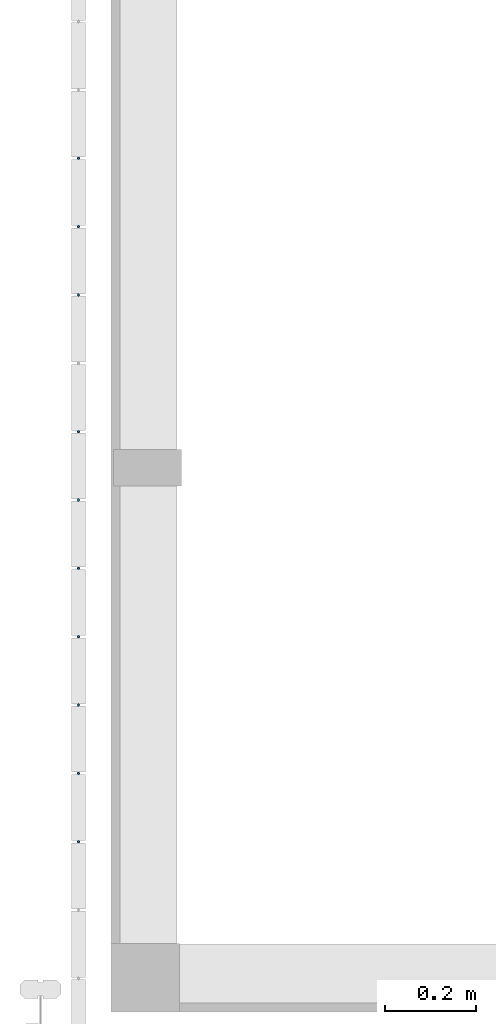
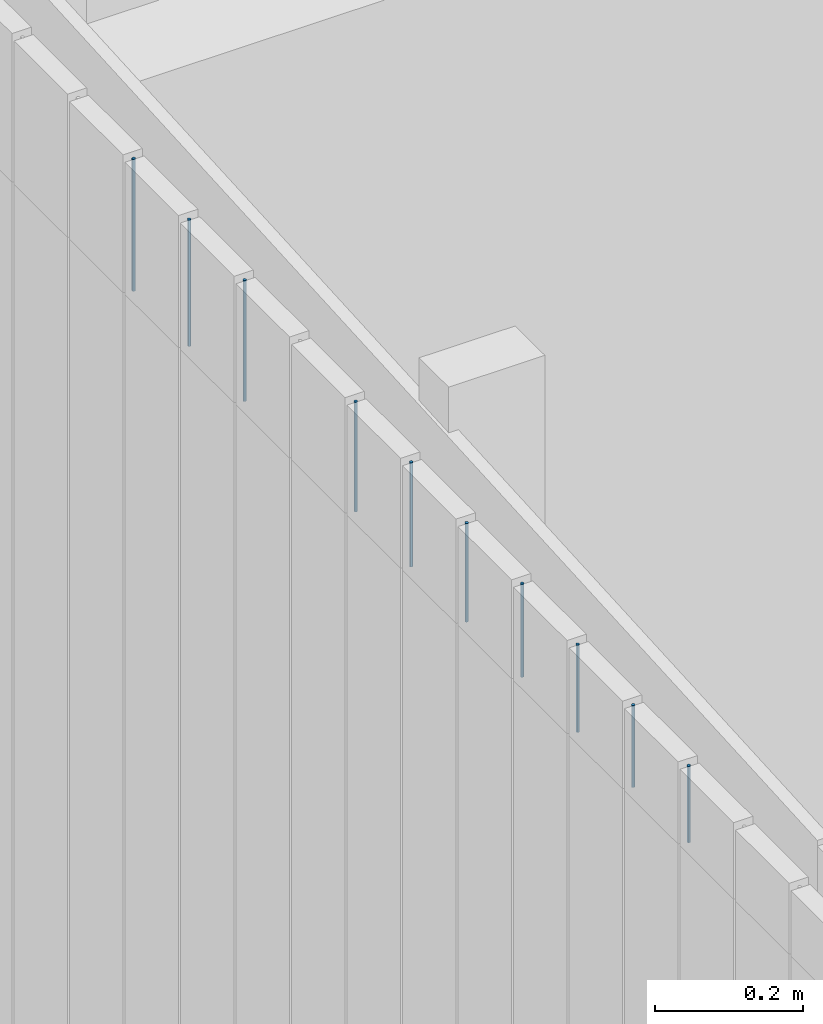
# One storey, part 57 of 81: 10 members, 1 element without a shape of its own.
"""IFC2X3 building model written with IfcOpenShell, lengths in metres."""

import ifcopenshell
import ifcopenshell.guid

model = None  # the IFC model being written
_history = None  # IfcOwnerHistory: only IFC2X3 demands one
_inside = {}  # id of a spatial element -> (the spatial element, [elements in it])
_under = {}  # id of a project, library or spatial element -> (it, [spatial elements below it])
_declared = {}  # id of a project -> (the project, [libraries it declares])
_typed = {}  # id of a type object -> (the type object, [elements of that type])
_made_of = {}  # id of a material, layer set ... -> (it, [elements and type objects made of it])


def new_model(schema):
    """Start an empty IFC model of exactly this schema.

    Asked for "IFC4X3", IfcOpenShell would pick the latest addendum, in which some entities
    have other attributes; the version numbers below select the first issue.
    IFC2X3 requires an IfcOwnerHistory on every rooted entity: one is made here for all.
    """
    global model, _history
    if schema == "IFC4X3":
        model = ifcopenshell.file(schema_version=(4, 3, 0, 0))
    else:
        model = ifcopenshell.file(schema=schema)
    _inside.clear()
    _under.clear()
    _declared.clear()
    _typed.clear()
    _made_of.clear()
    _history = None
    if model.schema == "IFC2X3":
        org = make("IfcOrganization", Name="unknown")
        user = make(
            "IfcPersonAndOrganization",
            ThePerson=make("IfcPerson", FamilyName="unknown"),
            TheOrganization=org,
        )
        app = make(
            "IfcApplication",
            ApplicationDeveloper=org,
            Version="unknown",
            ApplicationFullName="unknown",
            ApplicationIdentifier="unknown",
        )
        _history = make(
            "IfcOwnerHistory",
            OwningUser=user,
            OwningApplication=app,
            ChangeAction="ADDED",
            CreationDate=0,
        )
    return model


def make(cls, **values):
    """One entity of the class cls with the attributes given. An attribute that is None is left unset."""
    return model.create_entity(
        cls, **{name: value for name, value in values.items() if value is not None}
    )


def entity(cls, *values):
    """Any entity or typed value of the class cls, its attributes in the order of the schema. None: left unset."""
    e = model.create_entity(cls)
    for i, value in enumerate(values):
        if value is not None:
            e[i] = value
    return e


def rooted(cls, **values):
    """An entity with a GlobalId (a new one), such as an element, a storey or a relation."""
    return make(cls, GlobalId=ifcopenshell.guid.new(), OwnerHistory=_history, **values)


def si_unit(unit_type, name, prefix=None):
    """IfcSIUnit, for example si_unit("LENGTHUNIT", "METRE", prefix="MILLI")."""
    return make("IfcSIUnit", UnitType=unit_type, Prefix=prefix, Name=name)


def converted_unit(unit_type, name, factor, base, dimensions=None, offset=None):
    """IfcConversionBasedUnit, such as the inch: factor (a typed value) times the base unit."""
    return make(
        "IfcConversionBasedUnit"
        if offset is None
        else "IfcConversionBasedUnitWithOffset",
        ConversionOffset=offset,
        Dimensions=None
        if dimensions is None
        else entity("IfcDimensionalExponents", *dimensions),
        UnitType=unit_type,
        Name=name,
        ConversionFactor=make(
            "IfcMeasureWithUnit", ValueComponent=factor, UnitComponent=base
        ),
    )


def derived_unit(unit_type, elements):
    """IfcDerivedUnit: a product of units, each with its exponent."""
    return make(
        "IfcDerivedUnit",
        Elements=[
            make("IfcDerivedUnitElement", Unit=unit, Exponent=power)
            for unit, power in elements
        ],
        UnitType=unit_type,
    )


def assignment(units):
    """IfcUnitAssignment: the units of a project."""
    return None if units is None else make("IfcUnitAssignment", Units=units)


def point(xyz):
    """IfcCartesianPoint."""
    return None if xyz is None else make("IfcCartesianPoint", Coordinates=xyz)


def direction(xyz):
    """IfcDirection."""
    return None if xyz is None else make("IfcDirection", DirectionRatios=xyz)


def frame(location, z_axis=None, x_axis=None):
    """IfcAxis2Placement3D, a coordinate frame: its origin and axes. An axis left out is left unset."""
    return make(
        "IfcAxis2Placement3D",
        Location=point(location),
        Axis=direction(z_axis),
        RefDirection=direction(x_axis),
    )


def frame_2d(location, x_axis=None):
    """IfcAxis2Placement2D, a coordinate frame in the plane: its origin and x axis."""
    return make(
        "IfcAxis2Placement2D", Location=point(location), RefDirection=direction(x_axis)
    )


def origin():
    """The frame at (0, 0, 0) with its axes left unset."""
    return frame((0.0, 0.0, 0.0))


def place(relative_to, where):
    """IfcLocalPlacement: puts the frame where relative to a parent placement (None: the world)."""
    return make(
        "IfcLocalPlacement", PlacementRelTo=relative_to, RelativePlacement=where
    )


def context(
    kind, dimensions, precision=None, world=None, true_north=None, identifier=None
):
    """IfcGeometricRepresentationContext, for example the 3D "Model" context."""
    return make(
        "IfcGeometricRepresentationContext",
        ContextIdentifier=identifier,
        ContextType=kind,
        CoordinateSpaceDimension=dimensions,
        Precision=precision,
        WorldCoordinateSystem=world,
        TrueNorth=true_north,
    )


def subcontext(parent, identifier, kind, view, scale=None):
    """IfcGeometricRepresentationSubContext, for example "Body" below "Model"."""
    return make(
        "IfcGeometricRepresentationSubContext",
        ContextIdentifier=identifier,
        ContextType=kind,
        ParentContext=parent,
        TargetScale=scale,
        TargetView=view,
    )


def project(units=None, contexts=None):
    """IfcProject with its units and contexts."""
    return rooted(
        "IfcProject",
        Name="project",
        RepresentationContexts=contexts,
        UnitsInContext=assignment(units),
    )


def spatial(cls, under=None, at=None, **own):
    """A site, building, storey or space (cls), placed at a placement, below another one or the project."""
    s = rooted(cls, ObjectPlacement=at, **own)
    if under is not None:
        _under.setdefault(under.id(), (under, []))[1].append(s)
    return s


def profile(cls, at=None, kind="AREA", **sizes):
    """A parametric profile (cls). Its sizes go by their IFC names, for example OverallWidth=200.0."""
    return make(cls, ProfileType=kind, Position=at, **sizes)


def circle(**sizes):
    """IfcCircleProfileDef."""
    return profile("IfcCircleProfileDef", **sizes)


def extrude(swept, where, along, depth):
    """IfcExtrudedAreaSolid: the profile swept, set in the frame where, extruded along a direction by depth."""
    return make(
        "IfcExtrudedAreaSolid",
        SweptArea=swept,
        Position=where,
        ExtrudedDirection=direction(along),
        Depth=depth,
    )


def shape(context_of_items, identifier, shape_type, items):
    """IfcShapeRepresentation: the items that make up one representation, for example the "Body"."""
    return make(
        "IfcShapeRepresentation",
        ContextOfItems=context_of_items,
        RepresentationIdentifier=identifier,
        RepresentationType=shape_type,
        Items=items,
    )


def source(mapping_origin, context_of_items, identifier, shape_type, items):
    """IfcRepresentationMap: a shape defined once, which mapped items show again and again."""
    return make(
        "IfcRepresentationMap",
        MappingOrigin=mapping_origin,
        MappedRepresentation=shape(context_of_items, identifier, shape_type, items),
    )


def transform(
    local_origin,
    x_axis=None,
    y_axis=None,
    z_axis=None,
    scale=None,
    scale2=None,
    scale3=None,
    uniform=True,
):
    """IfcCartesianTransformationOperator3D, or its non-uniform kind. x_axis, y_axis, z_axis: its Axis1, 2, 3."""
    if uniform:
        return make(
            "IfcCartesianTransformationOperator3D",
            Axis1=direction(x_axis),
            Axis2=direction(y_axis),
            LocalOrigin=point(local_origin),
            Scale=scale,
            Axis3=direction(z_axis),
        )
    return make(
        "IfcCartesianTransformationOperator3DnonUniform",
        Axis1=direction(x_axis),
        Axis2=direction(y_axis),
        LocalOrigin=point(local_origin),
        Scale=scale,
        Axis3=direction(z_axis),
        Scale2=scale2,
        Scale3=scale3,
    )


def mapped(mapping_source, mapping_target):
    """IfcMappedItem: shows the shape of a source again, moved by a transform."""
    return make(
        "IfcMappedItem", MappingSource=mapping_source, MappingTarget=mapping_target
    )


def material(Name=None, Category=None):
    """IfcMaterial."""
    return make("IfcMaterial", Name=Name, Category=Category)


def made_of(thing, what):
    """Note that an element or type object is made of a material, layer set ...; save() writes the relation."""
    if what is not None:
        _made_of.setdefault(what.id(), (what, []))[1].append(thing)
    return thing


def type_object(cls, material=None, **own):
    """A type object (cls), such as IfcWallType, which elements share."""
    return made_of(rooted(cls, **own), material)


def type_shapes(of_type, sources):
    """Give a type object the sources (RepresentationMaps) that its elements show as mapped items."""
    of_type.RepresentationMaps = sources


def element(
    cls,
    number,
    at=None,
    inside=None,
    cuts=None,
    type_object=None,
    material=None,
    context=None,
    identifier="Body",
    shape_type=None,
    held_by="IfcProductDefinitionShape",
    body=None,
    shapes=None,
    **own,
):
    """One element of the class cls, such as IfcWall. Its Tag is "e" and its number.

    at: its placement. inside: the storey or other place that contains it. cuts: it is an
    opening in that element (IfcRelVoidsElement). A single representation is given by context,
    identifier, shape_type and body (its items); several are given by shapes. held_by: the class
    of the entity that holds the representations. save() writes the other relations.
    """
    e = rooted(cls, Tag="e%d" % number, ObjectPlacement=at, **own)
    if body is not None:
        shapes = [shape(context, identifier, shape_type, body)]
    if shapes is not None:
        e.Representation = make(held_by, Representations=shapes)
    if inside is not None:
        _inside.setdefault(inside.id(), (inside, []))[1].append(e)
    if cuts is not None:
        rooted(
            "IfcRelVoidsElement", RelatingBuildingElement=cuts, RelatedOpeningElement=e
        )
    if type_object is not None:
        _typed.setdefault(type_object.id(), (type_object, []))[1].append(e)
    return made_of(e, material)


def aggregate(whole, parts):
    """IfcRelAggregates: a whole, such as a stair, and the parts it consists of."""
    return rooted("IfcRelAggregates", RelatingObject=whole, RelatedObjects=parts)


def save(model, path):
    """Write the relations noted so far, then the file.

    IfcRelAggregates (storeys below a building ...), IfcRelContainedInSpatialStructure (elements
    in a storey), IfcRelDefinesByType, IfcRelAssociatesMaterial and IfcRelDeclares: one each for
    every whole, place, type object, material and project.
    """
    for whole, parts in _under.values():
        aggregate(whole, parts)
    for where, things in _inside.values():
        rooted(
            "IfcRelContainedInSpatialStructure",
            RelatedElements=things,
            RelatingStructure=where,
        )
    for kind, things in _typed.values():
        rooted("IfcRelDefinesByType", RelatedObjects=things, RelatingType=kind)
    for what, things in _made_of.values():
        rooted("IfcRelAssociatesMaterial", RelatedObjects=things, RelatingMaterial=what)
    for by, libraries in _declared.values():
        rooted("IfcRelDeclares", RelatingContext=by, RelatedDefinitions=libraries)
    model.write(path)


model = new_model("IFC2X3")

# Units and contexts
model_context = context("Model", 3, precision=1e-05, world=origin(), true_north=direction((6.12303176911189e-17, 1.0)))
body_context = subcontext(model_context, "Body", "Model", "MODEL_VIEW")
ifc_project = project(units=[si_unit("LENGTHUNIT", "METRE"), si_unit("AREAUNIT", "SQUARE_METRE"), si_unit("VOLUMEUNIT", "CUBIC_METRE"), converted_unit("PLANEANGLEUNIT", "DEGREE", entity("IfcRatioMeasure", 0.0174532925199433), si_unit("PLANEANGLEUNIT", "RADIAN"), dimensions=[0, 0, 0, 0, 0, 0, 0]), si_unit("MASSUNIT", "GRAM", prefix="KILO"), derived_unit("MASSDENSITYUNIT", [(si_unit("MASSUNIT", "GRAM", prefix="KILO"), 1), (si_unit("LENGTHUNIT", "METRE"), -3)]), derived_unit("MOMENTOFINERTIAUNIT", [(si_unit("LENGTHUNIT", "METRE"), 4)]), si_unit("TIMEUNIT", "SECOND"), si_unit("FREQUENCYUNIT", "HERTZ"), si_unit("THERMODYNAMICTEMPERATUREUNIT", "DEGREE_CELSIUS"), derived_unit("THERMALTRANSMITTANCEUNIT", [(si_unit("MASSUNIT", "GRAM", prefix="KILO"), 1), (si_unit("THERMODYNAMICTEMPERATUREUNIT", "KELVIN"), -1), (si_unit("TIMEUNIT", "SECOND"), -3)]), derived_unit("VOLUMETRICFLOWRATEUNIT", [(si_unit("LENGTHUNIT", "METRE"), 3), (si_unit("TIMEUNIT", "SECOND"), -1)]), si_unit("ELECTRICCURRENTUNIT", "AMPERE"), si_unit("ELECTRICVOLTAGEUNIT", "VOLT"), si_unit("POWERUNIT", "WATT"), si_unit("FORCEUNIT", "NEWTON", prefix="KILO"), si_unit("ILLUMINANCEUNIT", "LUX"), si_unit("LUMINOUSFLUXUNIT", "LUMEN"), si_unit("LUMINOUSINTENSITYUNIT", "CANDELA"), derived_unit("USERDEFINED", [(si_unit("MASSUNIT", "GRAM", prefix="KILO"), -1), (si_unit("LENGTHUNIT", "METRE"), -2), (si_unit("TIMEUNIT", "SECOND"), 3), (si_unit("LUMINOUSFLUXUNIT", "LUMEN"), 1)]), derived_unit("LINEARVELOCITYUNIT", [(si_unit("LENGTHUNIT", "METRE"), 1), (si_unit("TIMEUNIT", "SECOND"), -1)]), si_unit("PRESSUREUNIT", "PASCAL"), derived_unit("USERDEFINED", [(si_unit("LENGTHUNIT", "METRE"), -2), (si_unit("MASSUNIT", "GRAM", prefix="KILO"), 1), (si_unit("TIMEUNIT", "SECOND"), -2)]), derived_unit("LINEARFORCEUNIT", [(si_unit("MASSUNIT", "GRAM", prefix="KILO"), 1), (si_unit("LENGTHUNIT", "METRE"), 1), (si_unit("TIMEUNIT", "SECOND"), -2), (si_unit("LENGTHUNIT", "METRE"), -1)]), derived_unit("PLANARFORCEUNIT", [(si_unit("MASSUNIT", "GRAM", prefix="KILO"), 1), (si_unit("LENGTHUNIT", "METRE"), 1), (si_unit("TIMEUNIT", "SECOND"), -2), (si_unit("LENGTHUNIT", "METRE"), -2)])], contexts=[model_context])

# Site, building, storey
site_placement = place(None, origin())
site = spatial("IfcSite", under=ifc_project, at=site_placement, Name="Surface", CompositionType="ELEMENT")
building_placement = place(site_placement, origin())
building = spatial("IfcBuilding", under=site, at=building_placement, CompositionType="ELEMENT")
storey_placement = place(building_placement, origin())
storey = spatial("IfcBuildingStorey", under=building, at=storey_placement, Name="01 RDC", CompositionType="ELEMENT", Elevation=-1.94916083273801e-14)

# Curtain wall, members
curtain_wall_type = type_object("IfcCurtainWallType", Name="Mur-rideau:1m x 2m", PredefinedType="NOTDEFINED")
curtain_wall_placement = place(storey_placement, origin())
curtain_wall = element("IfcCurtainWall", 1, at=curtain_wall_placement, inside=storey, type_object=curtain_wall_type, Name="Mur-rideau:1m x 2m", ObjectType="Mur-rideau:1m x 2m")
ifc_material = material(Name="Aluminium - Vert")
member_type_1 = type_object("IfcMemberType", Name="Meneau circulaire:R-30 mm", PredefinedType="MULLION", material=ifc_material)
shared_shape_1 = source(origin(), body_context, "Body", "SweptSolid", [
    extrude(circle(Radius=0.0025, at=frame_2d((-8.51053543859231e-29, 3.26029906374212e-16), x_axis=(1.0, 0.0))), frame((0.0, 0.0, -0.199685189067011), z_axis=(0.0, 0.0, 1.0), x_axis=(-1.0, 0.0, 0.0)), (0.0, 0.0, 1.0), 0.199685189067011),
])
type_shapes(member_type_1, [shared_shape_1])
member_1_placement = place(storey_placement, frame((5.45983615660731, -4.65721095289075, 2.3), z_axis=(0.0, 0.0, -1.0), x_axis=(0.0, 1.0, 0.0)))
member_1 = element("IfcMember", 2, at=member_1_placement, type_object=member_type_1, material=ifc_material, Name="Meneau circulaire:R-30 mm", ObjectType="Meneau circulaire:R-30 mm", context=body_context, shape_type="MappedRepresentation", body=[
    mapped(shared_shape_1, transform((0.0, 0.0, 0.0), scale=1.0)),
])
member_type_2 = type_object("IfcMemberType", Name="Meneau circulaire:R-30 mm", PredefinedType="MULLION", material=ifc_material)
shared_shape_2 = source(origin(), body_context, "Body", "SweptSolid", [
    extrude(circle(Radius=0.0025, at=frame_2d((-9.34316796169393e-29, 3.41811032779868e-16), x_axis=(1.0, 0.0))), frame((0.0, 0.0, -0.208859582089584), z_axis=(0.0, 0.0, 1.0), x_axis=(-1.0, 0.0, 0.0)), (0.0, 0.0, 1.0), 0.208859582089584),
])
type_shapes(member_type_2, [shared_shape_2])
member_2_placement = place(storey_placement, frame((5.45983615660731, -4.50721095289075, 2.3), z_axis=(0.0, 0.0, -1.0), x_axis=(0.0, 1.0, 0.0)))
member_2 = element("IfcMember", 3, at=member_2_placement, type_object=member_type_2, material=ifc_material, Name="Meneau circulaire:R-30 mm", ObjectType="Meneau circulaire:R-30 mm", context=body_context, shape_type="MappedRepresentation", body=[
    mapped(shared_shape_2, transform((0.0, 0.0, 0.0), scale=1.0)),
])
member_type_3 = type_object("IfcMemberType", Name="Meneau circulaire:R-30 mm", PredefinedType="MULLION", material=ifc_material)
shared_shape_3 = source(origin(), body_context, "Body", "SweptSolid", [
    extrude(circle(Radius=0.0025, at=frame_2d((-1.01264252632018e-28, 3.55715188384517e-16), x_axis=(1.0, 0.0))), frame((0.0, 0.0, -0.218033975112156), z_axis=(0.0, 0.0, 1.0), x_axis=(-1.0, 0.0, 0.0)), (0.0, 0.0, 1.0), 0.218033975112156),
])
type_shapes(member_type_3, [shared_shape_3])
member_3_placement = place(storey_placement, frame((5.45983615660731, -4.35721095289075, 2.3), z_axis=(0.0, 0.0, -1.0), x_axis=(0.0, 1.0, 0.0)))
member_3 = element("IfcMember", 4, at=member_3_placement, type_object=member_type_3, material=ifc_material, Name="Meneau circulaire:R-30 mm", ObjectType="Meneau circulaire:R-30 mm", context=body_context, shape_type="MappedRepresentation", body=[
    mapped(shared_shape_3, transform((0.0, 0.0, 0.0), scale=1.0)),
])
member_type_4 = type_object("IfcMemberType", Name="Meneau circulaire:R-30 mm", PredefinedType="MULLION", material=ifc_material)
shared_shape_4 = source(origin(), body_context, "Body", "SweptSolid", [
    extrude(circle(Radius=0.0025, at=frame_2d((2.64371857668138e-19, 2.97402111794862e-16), x_axis=(1.0, 0.0))), frame((0.0, 0.0, -0.181336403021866), z_axis=(0.0, 0.0, 1.0), x_axis=(-1.0, 0.0, 0.0)), (0.0, 0.0, 1.0), 0.181336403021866),
])
type_shapes(member_type_4, [shared_shape_4])
member_4_placement = place(storey_placement, frame((5.45983615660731, -4.95721095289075, 2.3), z_axis=(0.0, 0.0, -1.0), x_axis=(0.0, 1.0, 0.0)))
member_4 = element("IfcMember", 5, at=member_4_placement, type_object=member_type_4, material=ifc_material, Name="Meneau circulaire:R-30 mm", ObjectType="Meneau circulaire:R-30 mm", context=body_context, shape_type="MappedRepresentation", body=[
    mapped(shared_shape_4, transform((0.0, 0.0, 0.0), scale=1.0)),
])
member_type_5 = type_object("IfcMemberType", Name="Meneau circulaire:R-30 mm", PredefinedType="MULLION", material=ifc_material)
shared_shape_5 = source(origin(), body_context, "Body", "SweptSolid", [
    extrude(circle(Radius=0.0025, at=frame_2d((-6.36867757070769e-29, 2.82149729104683e-16), x_axis=(1.0, 0.0))), frame((0.0, 0.0, -0.172162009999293), z_axis=(0.0, 0.0, 1.0), x_axis=(-1.0, 0.0, 0.0)), (0.0, 0.0, 1.0), 0.172162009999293),
])
type_shapes(member_type_5, [shared_shape_5])
member_5_placement = place(storey_placement, frame((5.45983615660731, -5.10721095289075, 2.3), z_axis=(0.0, 0.0, -1.0), x_axis=(0.0, 1.0, 0.0)))
member_5 = element("IfcMember", 6, at=member_5_placement, type_object=member_type_5, material=ifc_material, Name="Meneau circulaire:R-30 mm", ObjectType="Meneau circulaire:R-30 mm", context=body_context, shape_type="MappedRepresentation", body=[
    mapped(shared_shape_5, transform((0.0, 0.0, 0.0), scale=1.0)),
])
member_type_6 = type_object("IfcMemberType", Name="Meneau circulaire:R-30 mm", PredefinedType="MULLION", material=ifc_material)
shared_shape_6 = source(origin(), body_context, "Body", "SweptSolid", [
    extrude(circle(Radius=0.0025, at=frame_2d((-5.71850909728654e-29, 2.67426090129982e-16), x_axis=(1.0, 0.0))), frame((0.0, 0.0, -0.16298761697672), z_axis=(0.0, 0.0, 1.0), x_axis=(-1.0, 0.0, 0.0)), (0.0, 0.0, 1.0), 0.16298761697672),
])
type_shapes(member_type_6, [shared_shape_6])
member_6_placement = place(storey_placement, frame((5.45983615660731, -5.25721095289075, 2.3), z_axis=(0.0, 0.0, -1.0), x_axis=(0.0, 1.0, 0.0)))
member_6 = element("IfcMember", 7, at=member_6_placement, type_object=member_type_6, material=ifc_material, Name="Meneau circulaire:R-30 mm", ObjectType="Meneau circulaire:R-30 mm", context=body_context, shape_type="MappedRepresentation", body=[
    mapped(shared_shape_6, transform((0.0, 0.0, 0.0), scale=1.0)),
])
member_type_7 = type_object("IfcMemberType", Name="Meneau circulaire:R-30 mm", PredefinedType="MULLION", material=ifc_material)
shared_shape_7 = source(origin(), body_context, "Body", "SweptSolid", [
    extrude(circle(Radius=0.0025, at=frame_2d((-5.10173354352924e-29, 2.52464447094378e-16), x_axis=(1.0, 0.0))), frame((0.0, 0.0, -0.153813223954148), z_axis=(0.0, 0.0, 1.0), x_axis=(-1.0, 0.0, 0.0)), (0.0, 0.0, 1.0), 0.153813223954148),
])
type_shapes(member_type_7, [shared_shape_7])
member_7_placement = place(storey_placement, frame((5.45983615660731, -5.40721095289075, 2.3), z_axis=(0.0, 0.0, -1.0), x_axis=(0.0, 1.0, 0.0)))
member_7 = element("IfcMember", 8, at=member_7_placement, type_object=member_type_7, material=ifc_material, Name="Meneau circulaire:R-30 mm", ObjectType="Meneau circulaire:R-30 mm", context=body_context, shape_type="MappedRepresentation", body=[
    mapped(shared_shape_7, transform((0.0, 0.0, 0.0), scale=1.0)),
])
member_type_8 = type_object("IfcMemberType", Name="Meneau circulaire:R-30 mm", PredefinedType="MULLION", material=ifc_material)
shared_shape_8 = source(origin(), body_context, "Body", "SweptSolid", [
    extrude(circle(Radius=0.0025, at=frame_2d((-4.52920038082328e-29, 2.38005179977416e-16), x_axis=(1.0, 0.0))), frame((0.0, 0.0, -0.144638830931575), z_axis=(0.0, 0.0, 1.0), x_axis=(-1.0, 0.0, 0.0)), (0.0, 0.0, 1.0), 0.144638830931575),
])
type_shapes(member_type_8, [shared_shape_8])
member_8_placement = place(storey_placement, frame((5.45983615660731, -5.55721095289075, 2.3), z_axis=(0.0, 0.0, -1.0), x_axis=(0.0, 1.0, 0.0)))
member_8 = element("IfcMember", 9, at=member_8_placement, type_object=member_type_8, material=ifc_material, Name="Meneau circulaire:R-30 mm", ObjectType="Meneau circulaire:R-30 mm", context=body_context, shape_type="MappedRepresentation", body=[
    mapped(shared_shape_8, transform((0.0, 0.0, 0.0), scale=1.0)),
])
member_type_9 = type_object("IfcMemberType", Name="Meneau circulaire:R-30 mm", PredefinedType="MULLION", material=ifc_material)
shared_shape_9 = source(origin(), body_context, "Body", "SweptSolid", [
    extrude(circle(Radius=0.0025, at=frame_2d((-3.98364937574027e-29, 2.23281541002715e-16), x_axis=(1.0, 0.0))), frame((0.0, 0.0, -0.135464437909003), z_axis=(0.0, 0.0, 1.0), x_axis=(-1.0, 0.0, 0.0)), (0.0, 0.0, 1.0), 0.135464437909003),
])
type_shapes(member_type_9, [shared_shape_9])
member_9_placement = place(storey_placement, frame((5.45983615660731, -5.70721095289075, 2.3), z_axis=(0.0, 0.0, -1.0), x_axis=(0.0, 1.0, 0.0)))
member_9 = element("IfcMember", 10, at=member_9_placement, type_object=member_type_9, material=ifc_material, Name="Meneau circulaire:R-30 mm", ObjectType="Meneau circulaire:R-30 mm", context=body_context, shape_type="MappedRepresentation", body=[
    mapped(shared_shape_9, transform((0.0, 0.0, 0.0), scale=1.0)),
])
member_type_10 = type_object("IfcMemberType", Name="Meneau circulaire:R-30 mm", PredefinedType="MULLION", material=ifc_material)
shared_shape_10 = source(origin(), body_context, "Body", "SweptSolid", [
    extrude(circle(Radius=0.0025, at=frame_2d((-3.45989057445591e-29, 2.08029158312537e-16), x_axis=(1.0, 0.0))), frame((0.0, 0.0, -0.12629004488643), z_axis=(0.0, 0.0, 1.0), x_axis=(-1.0, 0.0, 0.0)), (0.0, 0.0, 1.0), 0.12629004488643),
])
type_shapes(member_type_10, [shared_shape_10])
member_10_placement = place(storey_placement, frame((5.45983615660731, -5.85721095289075, 2.3), z_axis=(0.0, 0.0, -1.0), x_axis=(0.0, 1.0, 0.0)))
member_10 = element("IfcMember", 11, at=member_10_placement, type_object=member_type_10, material=ifc_material, Name="Meneau circulaire:R-30 mm", ObjectType="Meneau circulaire:R-30 mm", context=body_context, shape_type="MappedRepresentation", body=[
    mapped(shared_shape_10, transform((0.0, 0.0, 0.0), scale=1.0)),
])
aggregate(curtain_wall, [member_1, member_2, member_3, member_4, member_5, member_6, member_7, member_8, member_9, member_10])

save(model, "model.ifc")
